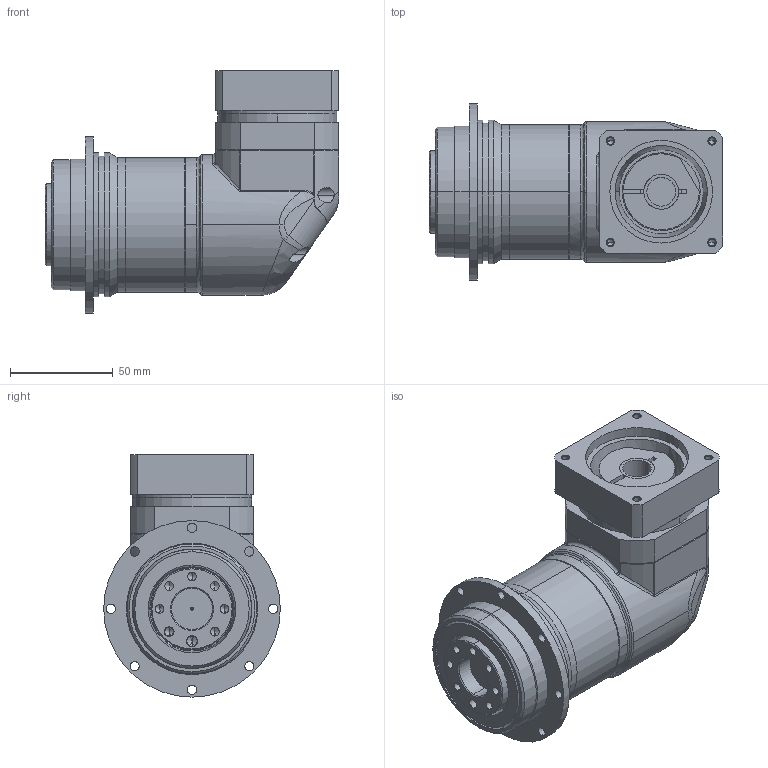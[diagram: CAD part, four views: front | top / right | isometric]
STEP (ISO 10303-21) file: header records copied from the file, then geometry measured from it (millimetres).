
FILE_DESCRIPTION (( 'STEP AP203' ), '1' );
FILE_NAME ('ADR064-L2-14-50-70-M4.STEP', '2024-05-04T08:17:08', ( '' ), ( '' ), 'SwSTEP 2.0', 'SolidWorks 2015', '' );
FILE_SCHEMA (( 'CONFIG_CONTROL_DESIGN' ));
Length unit declared in the file: millimetre
Products named in the file (1): ADR064-L2-14-50-70-M4
Bounding box: 143 x 86 x 118 mm (x, y, z)
Volume: 489286.8 mm3; surface area: 111479.9 mm2
Topology: 9 solids, 9 shells, 465 faces, 1101 edges, 653 vertices
Faces by surface type: cylinder 178, cone 111, bspline 89, plane 79, torus 8
Entity records: 17639 total; most frequent: CARTESIAN_POINT 7490, ORIENTED_EDGE 2114, DIRECTION 2054, EDGE_CURVE 1057, AXIS2_PLACEMENT_3D 855, VERTEX_POINT 653, EDGE_LOOP 544, CIRCLE 478
